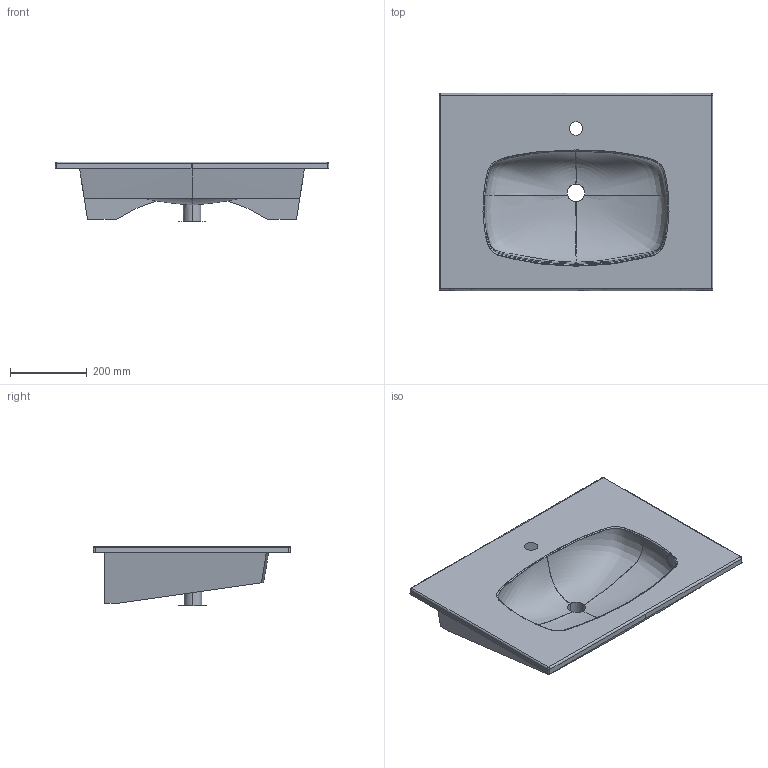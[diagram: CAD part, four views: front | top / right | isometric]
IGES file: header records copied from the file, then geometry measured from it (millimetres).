
Start section: START RECORD GO HERE.
Global section: file name: 3D Mabelle 71.igs; native system: DASSAULT SYSTEMES CATIA V5 R19 - www.3ds.com; preprocessor: CATIA Version 5 Release 19 SP 5 ; author: Luca; organization: DESKTOP-V7SON24; date: 20190410.124049; units: millimetre
Bounding box: 715.18 x 515.63 x 156.5 mm (x, y, z)
Surface area: 731568.7 mm2 (no closed solid volume)
Topology: 0 solids, 0 shells, 69 faces, 340 edges, 336 vertices
Faces by surface type: bspline 54, plane 11, revolution 4
